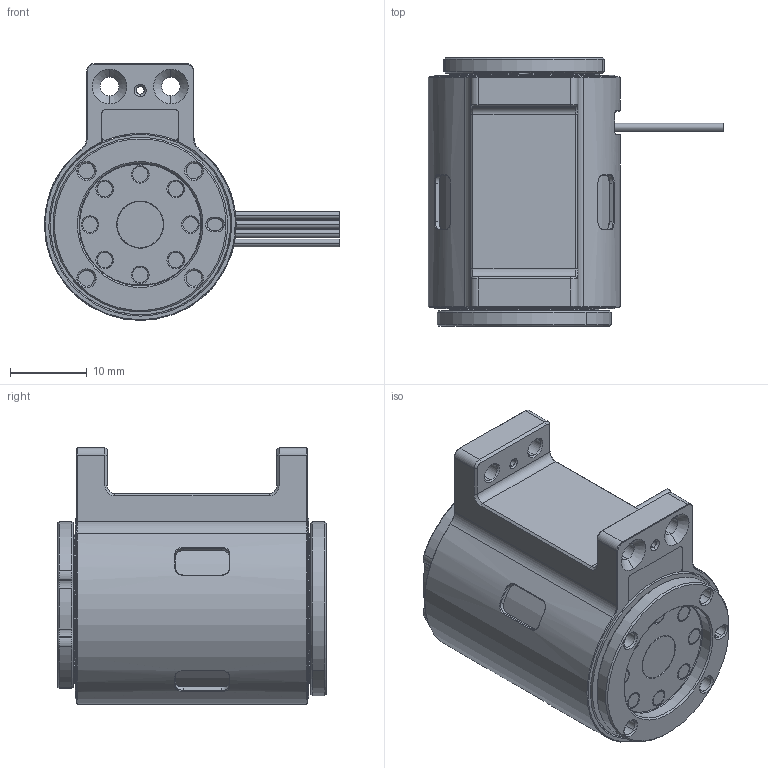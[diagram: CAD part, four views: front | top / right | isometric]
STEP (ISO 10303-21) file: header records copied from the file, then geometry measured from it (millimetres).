
FILE_DESCRIPTION((''),'2;1');
FILE_NAME('040200000013_ASM','2026-09-01T11:44:50',('wenbo'),(''),'CREO PARAMETRIC BY PTC INC, 2024325','CREO PARAMETRIC BY PTC INC, 2024325','');
FILE_SCHEMA(('CONFIG_CONTROL_DESIGN'));
Length unit declared in the file: millimetre
Products named in the file (14): 043000000002_181; 040400000004_ASM_127_ASM; 045600000001_66; 045400000003_16; 043500000004_18; 044200000005_155; 044200000004_169; 043500000003_17; 044300000004_33; 040600000002_ASM_56_ASM; 040200000007_ASM_428_ASM; YUANZHU; YUANZHU2; 040200000013_ASM
Assembly tree (21 placements, depth 4):
  040200000013_ASM
    040200000007_ASM_428_ASM
      040400000004_ASM_127_ASM
        043000000002_181
      045600000001_66
      045400000003_16  x2
      043500000004_18
      044200000005_155
      040600000002_ASM_56_ASM
        044200000004_169
        043500000003_17
        044300000004_33  x8
    YUANZHU
    YUANZHU2
Bounding box: 38.5 x 35 x 33.5 mm (x, y, z)
Volume: 13306.4 mm3; surface area: 13192.4 mm2
Topology: 18 solids, 26 shells, 727 faces, 1999 edges, 1315 vertices
Faces by surface type: cylinder 222, cone 206, plane 199, bspline 70, torus 30
Entity records: 28936 total; most frequent: CARTESIAN_POINT 10605, DIRECTION 3956, ORIENTED_EDGE 3734, EDGE_CURVE 1903, AXIS2_PLACEMENT_3D 1581, VERTEX_POINT 1241, CIRCLE 905, VECTOR 794
